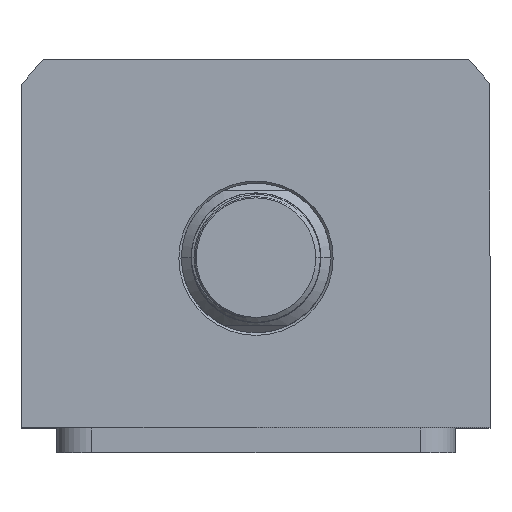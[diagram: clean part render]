
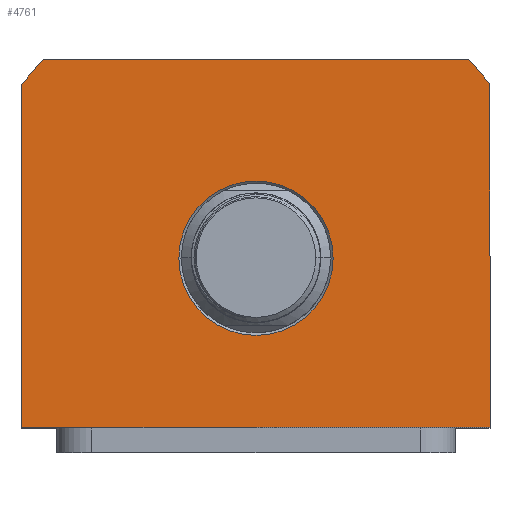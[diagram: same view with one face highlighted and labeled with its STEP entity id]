
A CAD part, top view. The second image highlights one B-rep face of the part: STEP entity #4761.
In plain terms, the highlighted planar face has unit normal (0, 0, 1).
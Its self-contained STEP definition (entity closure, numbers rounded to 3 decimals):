
#535 = LINE ( 'NONE', #10733, #14077 ) ;
#744 = CARTESIAN_POINT ( 'NONE',  ( 47., -34., 47.5 ) ) ;
#754 = CARTESIAN_POINT ( 'NONE',  ( 47., 34.832, 47.5 ) ) ;
#1014 = AXIS2_PLACEMENT_3D ( 'NONE', #19666, #19532, #4638 ) ;
#1083 = CARTESIAN_POINT ( 'NONE',  ( 0., 0., 47.5 ) ) ;
#1293 = AXIS2_PLACEMENT_3D ( 'NONE', #2055, #12989, #19010 ) ;
#1304 = EDGE_LOOP ( 'NONE', ( #4201, #7042, #5815, #16586, #17724, #3831 ) ) ;
#2047 = EDGE_LOOP ( 'NONE', ( #2370, #8327 ) ) ;
#2055 = CARTESIAN_POINT ( 'NONE',  ( 0., 0., 47.5 ) ) ;
#2370 = ORIENTED_EDGE ( 'NONE', *, *, #2401, .T. ) ;
#2401 = EDGE_CURVE ( 'NONE', #5611, #7960, #2584, .T. ) ;
#2584 = CIRCLE ( 'NONE', #1014, 15.5 ) ;
#2613 = DIRECTION ( 'NONE',  ( 0., 0., 1. ) ) ;
#3508 = CARTESIAN_POINT ( 'NONE',  ( -47., 34.832, 47.5 ) ) ;
#3633 = VERTEX_POINT ( 'NONE', #17776 ) ;
#3831 = ORIENTED_EDGE ( 'NONE', *, *, #8706, .T. ) ;
#4201 = ORIENTED_EDGE ( 'NONE', *, *, #8958, .T. ) ;
#4597 = VERTEX_POINT ( 'NONE', #3508 ) ;
#4638 = DIRECTION ( 'NONE',  ( 1., 0., 0. ) ) ;
#4761 = ADVANCED_FACE ( 'NONE', ( #15575, #12498 ), #5969, .T. ) ;
#4888 = AXIS2_PLACEMENT_3D ( 'NONE', #7218, #16534, #10250 ) ;
#5259 = VECTOR ( 'NONE', #13900, 1000. ) ;
#5611 = VERTEX_POINT ( 'NONE', #8325 ) ;
#5815 = ORIENTED_EDGE ( 'NONE', *, *, #9781, .T. ) ;
#5902 = CARTESIAN_POINT ( 'NONE',  ( -42.688, 40., 47.5 ) ) ;
#5947 = LINE ( 'NONE', #9407, #5259 ) ;
#5969 = PLANE ( 'NONE',  #4888 ) ;
#6784 = CARTESIAN_POINT ( 'NONE',  ( 42.688, 40., 47.5 ) ) ;
#6892 = CIRCLE ( 'NONE', #10554, 58.5 ) ;
#6984 = CIRCLE ( 'NONE', #16845, 58.5 ) ;
#7042 = ORIENTED_EDGE ( 'NONE', *, *, #9337, .T. ) ;
#7218 = CARTESIAN_POINT ( 'NONE',  ( 0., 0., 47.5 ) ) ;
#7960 = VERTEX_POINT ( 'NONE', #13734 ) ;
#8240 = EDGE_CURVE ( 'NONE', #7960, #5611, #11415, .T. ) ;
#8325 = CARTESIAN_POINT ( 'NONE',  ( 15.5, 0., 47.5 ) ) ;
#8327 = ORIENTED_EDGE ( 'NONE', *, *, #8240, .T. ) ;
#8706 = EDGE_CURVE ( 'NONE', #4597, #16605, #5947, .T. ) ;
#8958 = EDGE_CURVE ( 'NONE', #16605, #3633, #17542, .T. ) ;
#9337 = EDGE_CURVE ( 'NONE', #3633, #12932, #535, .T. ) ;
#9407 = CARTESIAN_POINT ( 'NONE',  ( -47., -34., 47.5 ) ) ;
#9641 = VERTEX_POINT ( 'NONE', #6784 ) ;
#9781 = EDGE_CURVE ( 'NONE', #12932, #9641, #6984, .T. ) ;
#10250 = DIRECTION ( 'NONE',  ( 1., 0., 0. ) ) ;
#10450 = CARTESIAN_POINT ( 'NONE',  ( 0., 0., 47.5 ) ) ;
#10554 = AXIS2_PLACEMENT_3D ( 'NONE', #1083, #2613, #16260 ) ;
#10669 = DIRECTION ( 'NONE',  ( -1., 0., 0. ) ) ;
#10733 = CARTESIAN_POINT ( 'NONE',  ( 47., 34.832, 47.5 ) ) ;
#11158 = EDGE_CURVE ( 'NONE', #9641, #19219, #15969, .T. ) ;
#11238 = DIRECTION ( 'NONE',  ( 1., 0., 0. ) ) ;
#11415 = CIRCLE ( 'NONE', #1293, 15.5 ) ;
#12168 = DIRECTION ( 'NONE',  ( 1., 0., 0. ) ) ;
#12498 = FACE_OUTER_BOUND ( 'NONE', #1304, .T. ) ;
#12932 = VERTEX_POINT ( 'NONE', #754 ) ;
#12989 = DIRECTION ( 'NONE',  ( 0., 0., -1. ) ) ;
#13071 = VECTOR ( 'NONE', #10669, 1000. ) ;
#13501 = VECTOR ( 'NONE', #11238, 1000. ) ;
#13717 = DIRECTION ( 'NONE',  ( 0., 1., 0. ) ) ;
#13734 = CARTESIAN_POINT ( 'NONE',  ( -15.5, 0., 47.5 ) ) ;
#13900 = DIRECTION ( 'NONE',  ( 0., -1., 0. ) ) ;
#14077 = VECTOR ( 'NONE', #13717, 1000. ) ;
#14928 = EDGE_CURVE ( 'NONE', #19219, #4597, #6892, .T. ) ;
#14978 = CARTESIAN_POINT ( 'NONE',  ( -42.688, 40., 47.5 ) ) ;
#15575 = FACE_BOUND ( 'NONE', #2047, .T. ) ;
#15969 = LINE ( 'NONE', #14978, #13071 ) ;
#16260 = DIRECTION ( 'NONE',  ( 1., 0., 0. ) ) ;
#16534 = DIRECTION ( 'NONE',  ( 0., 0., 1. ) ) ;
#16586 = ORIENTED_EDGE ( 'NONE', *, *, #11158, .T. ) ;
#16605 = VERTEX_POINT ( 'NONE', #19044 ) ;
#16845 = AXIS2_PLACEMENT_3D ( 'NONE', #10450, #18120, #12168 ) ;
#17542 = LINE ( 'NONE', #744, #13501 ) ;
#17724 = ORIENTED_EDGE ( 'NONE', *, *, #14928, .T. ) ;
#17776 = CARTESIAN_POINT ( 'NONE',  ( 47., -34., 47.5 ) ) ;
#18120 = DIRECTION ( 'NONE',  ( 0., 0., 1. ) ) ;
#19010 = DIRECTION ( 'NONE',  ( 1., 0., 0. ) ) ;
#19044 = CARTESIAN_POINT ( 'NONE',  ( -47., -34., 47.5 ) ) ;
#19219 = VERTEX_POINT ( 'NONE', #5902 ) ;
#19532 = DIRECTION ( 'NONE',  ( 0., 0., -1. ) ) ;
#19666 = CARTESIAN_POINT ( 'NONE',  ( 0., 0., 47.5 ) ) ;
